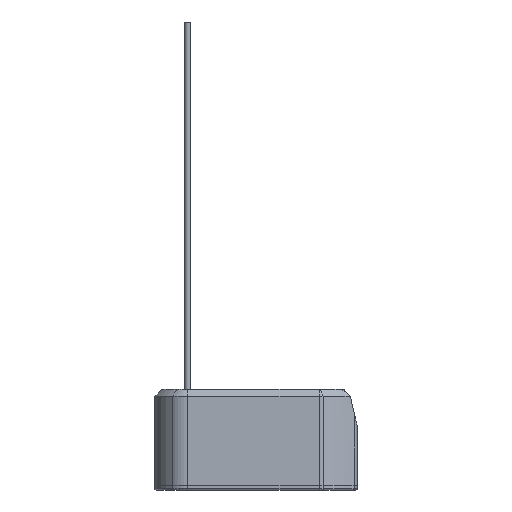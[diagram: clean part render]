
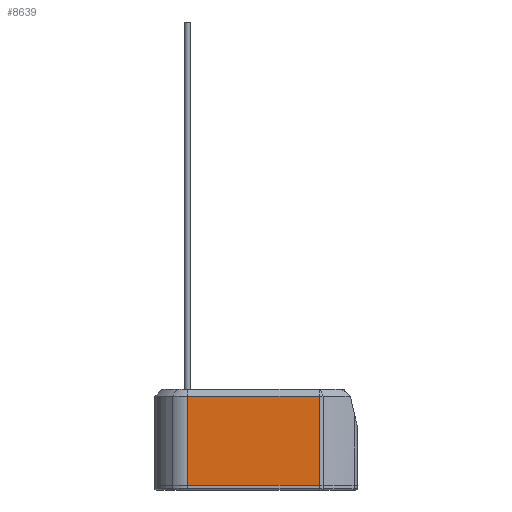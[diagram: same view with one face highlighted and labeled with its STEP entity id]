
A CAD part, left-side view. The second image highlights one B-rep face of the part: STEP entity #8639.
In plain terms, the highlighted planar face has unit normal (-1, 0, 0).
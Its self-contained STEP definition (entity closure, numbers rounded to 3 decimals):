
#791=LINE('',#14793,#1771);
#1040=LINE('',#15450,#2020);
#1046=LINE('',#15479,#2026);
#1047=LINE('',#15481,#2027);
#1771=VECTOR('',#11128,1000.);
#2020=VECTOR('',#11717,1000.);
#2026=VECTOR('',#11751,1000.);
#2027=VECTOR('',#11754,1000.);
#4191=ORIENTED_EDGE('',*,*,#5717,.F.);
#4192=ORIENTED_EDGE('',*,*,#5373,.T.);
#4193=ORIENTED_EDGE('',*,*,#5718,.T.);
#4194=ORIENTED_EDGE('',*,*,#5701,.F.);
#5373=EDGE_CURVE('',#6389,#6393,#791,.T.);
#5701=EDGE_CURVE('',#6631,#6632,#1040,.T.);
#5717=EDGE_CURVE('',#6389,#6631,#1046,.T.);
#5718=EDGE_CURVE('',#6393,#6632,#1047,.T.);
#6389=VERTEX_POINT('',#14783);
#6393=VERTEX_POINT('',#14792);
#6631=VERTEX_POINT('',#15449);
#6632=VERTEX_POINT('',#15451);
#7384=EDGE_LOOP('',(#4191,#4192,#4193,#4194));
#7889=FACE_BOUND('',#7384,.T.);
#8213=PLANE('',#9454);
#8639=ADVANCED_FACE('',(#7889),#8213,.F.);
#9454=AXIS2_PLACEMENT_3D('',#15480,#11752,#11753);
#11128=DIRECTION('',(0.,1.,0.));
#11717=DIRECTION('',(0.,1.,0.));
#11751=DIRECTION('',(0.,0.,-1.));
#11752=DIRECTION('',(1.,0.,0.));
#11753=DIRECTION('',(0.,0.,-1.));
#11754=DIRECTION('',(0.,0.,-1.));
#14783=CARTESIAN_POINT('',(-21.5,-14.309,20.4));
#14792=CARTESIAN_POINT('',(-21.5,14.35,20.4));
#14793=CARTESIAN_POINT('',(-21.5,14.371,20.4));
#15449=CARTESIAN_POINT('',(-21.5,-14.309,1.));
#15450=CARTESIAN_POINT('',(-21.5,21.5,1.));
#15451=CARTESIAN_POINT('',(-21.5,14.35,1.));
#15479=CARTESIAN_POINT('',(-21.5,-14.309,0.));
#15480=CARTESIAN_POINT('',(-21.5,21.5,21.8));
#15481=CARTESIAN_POINT('',(-21.5,14.35,21.8));
